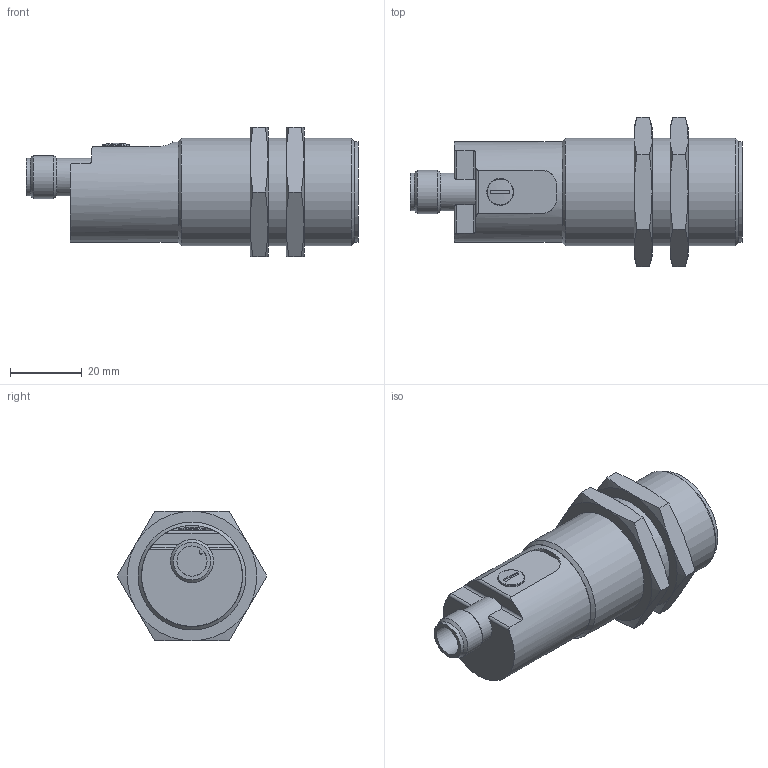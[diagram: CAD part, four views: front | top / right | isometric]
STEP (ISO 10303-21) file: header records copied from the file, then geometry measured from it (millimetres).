
FILE_DESCRIPTION( ( 'STEP AP203' ), ' ' );
FILE_NAME( 'p:/temp/worker_45/3268_628/app_41_02017012311055842600032192d056f_000000_00_00_000000/format_4/KI5306.stp', '2017-01-23T10:06:00', ( '' ), ( '' ), ' ', 'PARTsolutions', ' ' );
FILE_SCHEMA( ( 'CONFIG_CONTROL_DESIGN' ) );
Length unit declared in the file: millimetre
Products named in the file (3): KI5306; _KI5306_p1; _KI5306_p2
Assembly tree (3 placements, depth 2):
  KI5306
    _KI5306_p1
    _KI5306_p2  x2
Bounding box: 92.3 x 41.57 x 36 mm (x, y, z)
Volume: 58289.6 mm3; surface area: 13156.9 mm2
Topology: 3 solids, 3 shells, 92 faces, 209 edges, 127 vertices
Faces by surface type: plane 35, cone 33, cylinder 22, sphere 1, torus 1
Full cylindrical faces by diameter (mm): 7.5 x1, 8.4 x1, 10.45 x2, 12 x1, 28 x2, 28.376 x2, 30 x1
Entity records: 2121 total; most frequent: CARTESIAN_POINT 570, DIRECTION 297, ORIENTED_EDGE 276, EDGE_CURVE 138, AXIS2_PLACEMENT_3D 126, VERTEX_POINT 95, EDGE_LOOP 93, FACE_OUTER_BOUND 80
